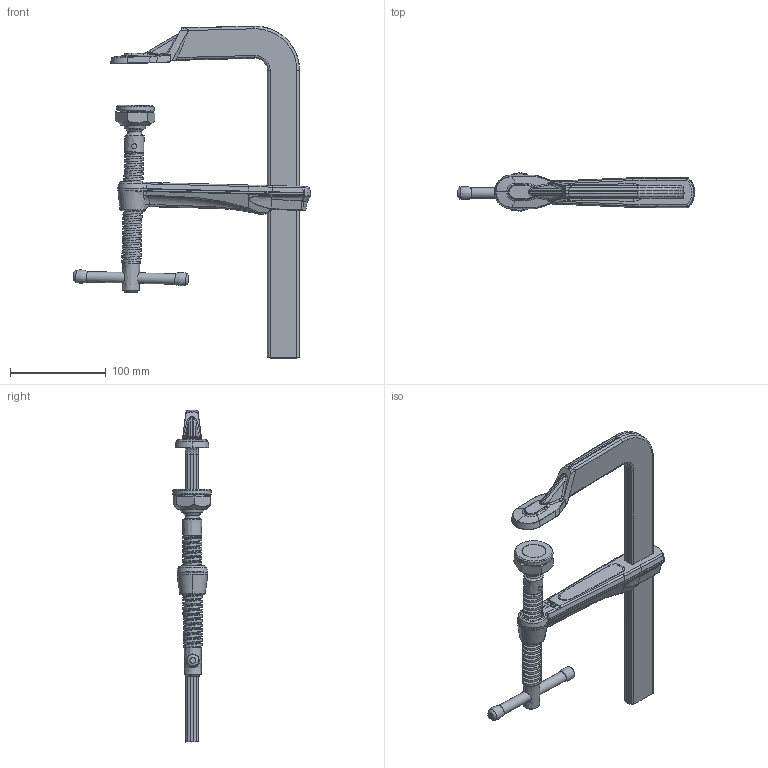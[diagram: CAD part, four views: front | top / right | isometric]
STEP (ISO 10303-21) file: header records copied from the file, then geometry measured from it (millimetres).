
FILE_DESCRIPTION( ('This file contains a STEP AP42 implementation' ,'as created by ZW3D STEP Interface translator.') ,'2;1' );
FILE_NAME( 'SG20M.stp' ,'20 630.121232', (''), ('ZWCAD Software Co.'), 'Version 1.0', 'ZW3D to STEP translator', '' );
FILE_SCHEMA(('AUTOMOTIVE_DESIGN'));
Length unit declared in the file: millimetre
Products named in the file (2): 0; SG20M
Bounding box: 247.67 x 39.98 x 346.73 mm (x, y, z)
Volume: 388607.5 mm3; surface area: 111272.9 mm2
Topology: 10 solids, 11 shells, 510 faces, 1183 edges, 709 vertices
Faces by surface type: bspline 510
Entity records: 121575 total; most frequent: CARTESIAN_POINT 114121, ORIENTED_EDGE 2340, EDGE_CURVE 1175, B_SPLINE_CURVE_WITH_KNOTS 857, VERTEX_POINT 700, EDGE_LOOP 540, FACE_OUTER_BOUND 510, ADVANCED_FACE 510
